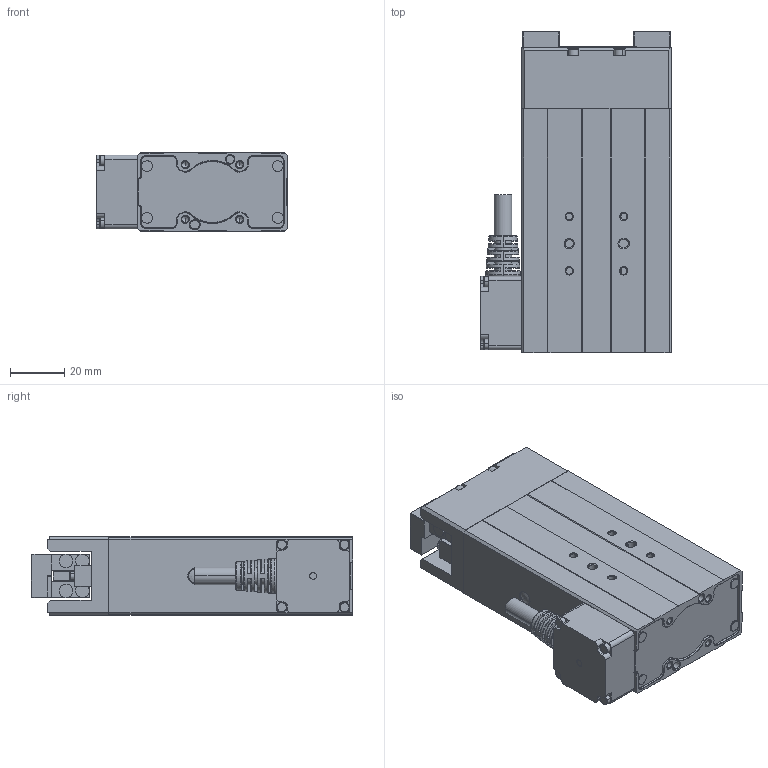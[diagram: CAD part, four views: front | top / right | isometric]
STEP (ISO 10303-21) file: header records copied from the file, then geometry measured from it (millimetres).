
FILE_DESCRIPTION (( 'STEP AP203' ), '1' );
FILE_NAME ('PGEA-15-26-W-O-F_V1.0 PGEA-50-26-W-O-F_V1.0 PGEA-100-26-O-F_V1.0_3D_20241220.STEP', '2024-12-20T02:07:41', ( '' ), ( '' ), 'SwSTEP 2.0', 'SolidWorks 2020', '' );
FILE_SCHEMA (( 'CONFIG_CONTROL_DESIGN' ));
Length unit declared in the file: millimetre
Products named in the file (20): M2-4-4芛-0.5綠; 厙帣假蚾璃A-20241119; M2.5x25 头径3.8宽度2.5小圆柱头; 衵價釱^PGEA-50-26; 酘價釱^PGEA-50-26; PGE50_Main cover; 复件 复件 复件 PGE-50U件连接板^电爪主体_PGEA-50-26; GB_FASTENER_SCREWS_HSHCS M2X6-N 3Í·¾¶_GB_FASTENER_SCREWS_HSHCS M2X6-N; 复件 复件 复件 PGE-50新基座0.5模数^右基座_PGEA-50-26; PGEA菁裔; GB_FASTENER_SCREWS_HSHCS M2X16-N.._GB_FASTENER_SCREWS_HSHCS M2X16-N; 萇蛈翋极^PGEA-50-26; 复件 复件 复件 M2-2-5头-0.5厚^右基座_PGEA-50-26; PGEA-M12ぱ籵厙帣; 絳嫖翐2.0-4; 复件 复件 复件 PGE-50新基座0.5模数^左基座_PGEA-50-26; 复件 复件 复件 M2-2-5头-0.5厚^左基座_PGEA-50-26; 复件 挡块更新^电爪主体_PGEA-50-26; LIGHT-PIPE; PGEA-15-26-W-O-F_V1.0 PGEA-50-26-W-O-F_V1.0 PGEA-100-26-O-F_V1.0_3D_20241220
Assembly tree (38 placements, depth 3):
  PGEA-15-26-W-O-F_V1.0 PGEA-50-26-W-O-F_V1.0 PGEA-100-26-O-F_V1.0_3D_20241220
    衵價釱^PGEA-50-26
      复件 复件 复件 PGE-50新基座0.5模数^右基座_PGEA-50-26
      复件 复件 复件 M2-2-5头-0.5厚^右基座_PGEA-50-26  x4
    酘價釱^PGEA-50-26
      复件 复件 复件 PGE-50新基座0.5模数^左基座_PGEA-50-26
      复件 复件 复件 M2-2-5头-0.5厚^左基座_PGEA-50-26  x4
    萇蛈翋极^PGEA-50-26
      复件 复件 复件 PGE-50U件连接板^电爪主体_PGEA-50-26
      GB_FASTENER_SCREWS_HSHCS M2X6-N 3Í·¾¶_GB_FASTENER_SCREWS_HSHCS M2X6-N  x4
      厙帣假蚾璃A-20241119
      PGEA-M12ぱ籵厙帣
      M2-4-4芛-0.5綠  x4
      M2.5x25 头径3.8宽度2.5小圆柱头  x4
      GB_FASTENER_SCREWS_HSHCS M2X16-N.._GB_FASTENER_SCREWS_HSHCS M2X16-N  x4
      絳嫖翐2.0-4
      LIGHT-PIPE
      PGEA菁裔
      PGE50_Main cover
      复件 挡块更新^电爪主体_PGEA-50-26  x2
Bounding box: 70 x 118 x 29 mm (x, y, z)
Volume: 184043.6 mm3; surface area: 45860.9 mm2
Topology: 35 solids, 35 shells, 1110 faces, 2588 edges, 1594 vertices
Faces by surface type: plane 431, cylinder 350, cone 248, torus 51, bspline 29, sphere 1
Entity records: 30393 total; most frequent: CARTESIAN_POINT 5948, DIRECTION 4727, ORIENTED_EDGE 4406, EDGE_CURVE 2203, AXIS2_PLACEMENT_3D 1741, VERTEX_POINT 1374, LINE 1245, VECTOR 1245
